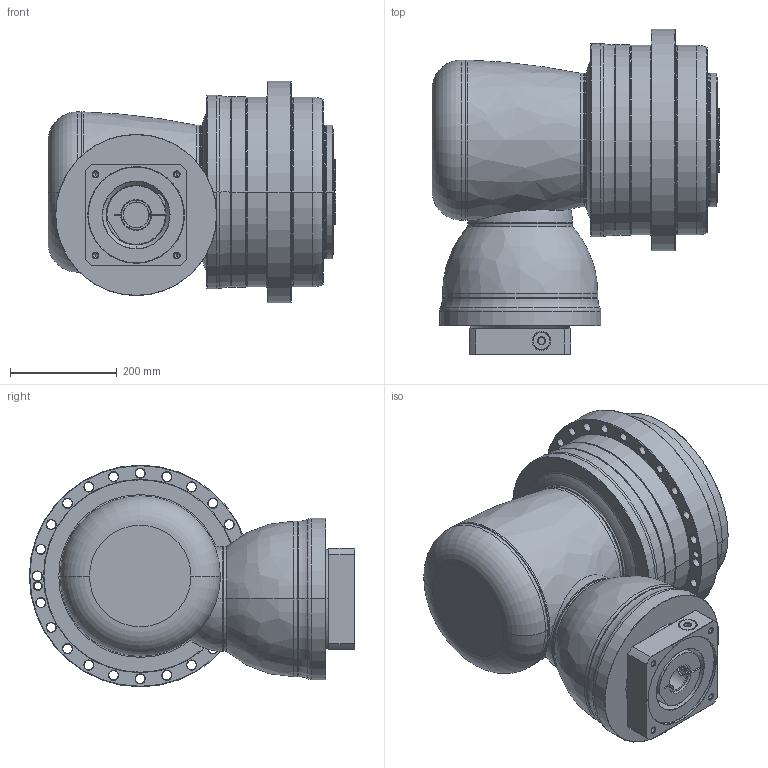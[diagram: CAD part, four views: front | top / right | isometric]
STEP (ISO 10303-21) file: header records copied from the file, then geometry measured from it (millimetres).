
FILE_DESCRIPTION((''),'2;1');
FILE_NAME('APCK355_2ST_48-P0409B10201_ASM','2018-05-10T',('d01226'),(''),'PRO/ENGINEER BY PARAMETRIC TECHNOLOGY CORPORATION, 2008410','PRO/ENGINEER BY PARAMETRIC TECHNOLOGY CORPORATION, 2008410','');
FILE_SCHEMA(('CONFIG_CONTROL_DESIGN'));
Length unit declared in the file: millimetre
Products named in the file (13): P1008800002; P1315800001; P1007801001; P1318810301; P0409B10201; P0503B00016; P0912853001; 21711426021; P1831100001; P0276101003; P03571G0103; P1222100001; APCK355_2ST_48-P0409B10201_ASM
Assembly tree (12 placements, depth 2):
  APCK355_2ST_48-P0409B10201_ASM
    P1008800002
    P1315800001
    P1007801001
    P1318810301
    P0409B10201
    P0503B00016
    P0912853001
    21711426021
    P1831100001
    P0276101003
    P03571G0103
    P1222100001
Bounding box: 539.1 x 609 x 415 mm (x, y, z)
Volume: 60008482.7 mm3; surface area: 2524500.3 mm2
Topology: 13 solids, 25 shells, 810 faces, 1951 edges, 1197 vertices
Faces by surface type: cone 258, cylinder 229, plane 155, torus 146, bspline 20, sphere 2
Entity records: 30769 total; most frequent: CARTESIAN_POINT 11371, DIRECTION 4338, ORIENTED_EDGE 3824, EDGE_CURVE 1937, AXIS2_PLACEMENT_3D 1920, VERTEX_POINT 1197, CIRCLE 1093, EDGE_LOOP 922
